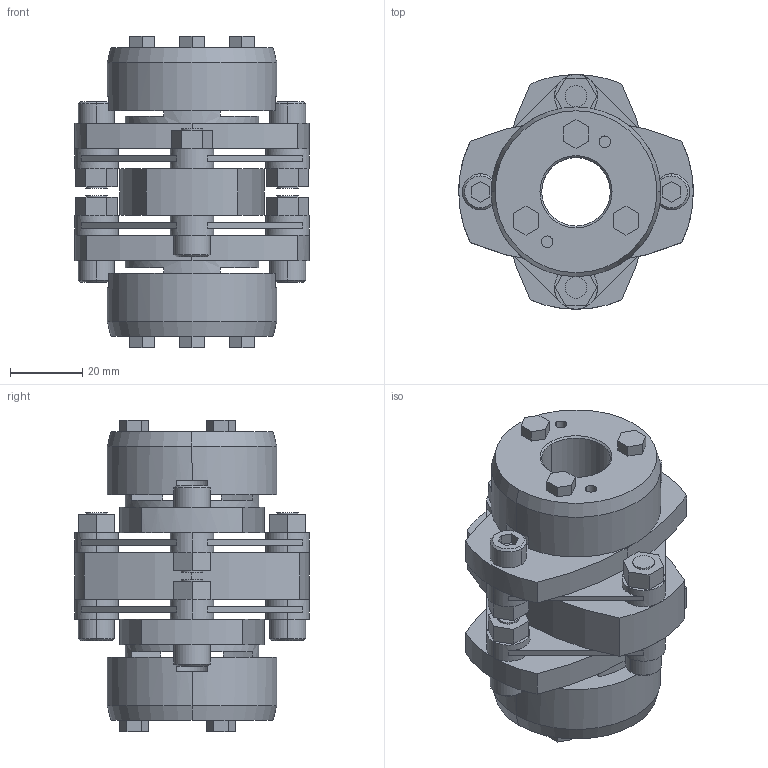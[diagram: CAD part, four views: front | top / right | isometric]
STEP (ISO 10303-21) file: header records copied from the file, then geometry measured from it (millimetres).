
FILE_DESCRIPTION((''),'2;1');
FILE_NAME('LCD-65T7-19×20.stp','2011-08-23T14:05:25',(''),(''),'AutoCAD STEP 2000i','AutoCAD 2000i',', , ');
FILE_SCHEMA(('CONFIG_CONTROL_DESIGN'));
Length unit declared in the file: millimetre
Products named in the file (9): LCD-65T7-19×19; 忣兜1; LC65T7-T019-1; LC65T7-T019; LC65T7-T017-1; LC65T7-T017; LC65T7-T015-1; LC65T7-T015; LCD65-ITA
Assembly tree (8 placements, depth 2):
  LCD-65T7-19×19
    忣兜1
    LC65T7-T019-1
    LC65T7-T019
    LC65T7-T017-1
    LC65T7-T017
    LC65T7-T015-1
    LC65T7-T015
    LCD65-ITA
Bounding box: 65 x 65 x 86.4 mm (x, y, z)
Volume: 116995.8 mm3; surface area: 41420 mm2
Topology: 1 solids, 1 shells, 304 faces, 792 edges, 516 vertices
Faces by surface type: plane 180, cylinder 100, cone 24
Entity records: 9619 total; most frequent: DIRECTION 1710, CARTESIAN_POINT 1621, ORIENTED_EDGE 1584, EDGE_CURVE 792, AXIS2_PLACEMENT_3D 605, VERTEX_POINT 516, VECTOR 500, LINE 500
